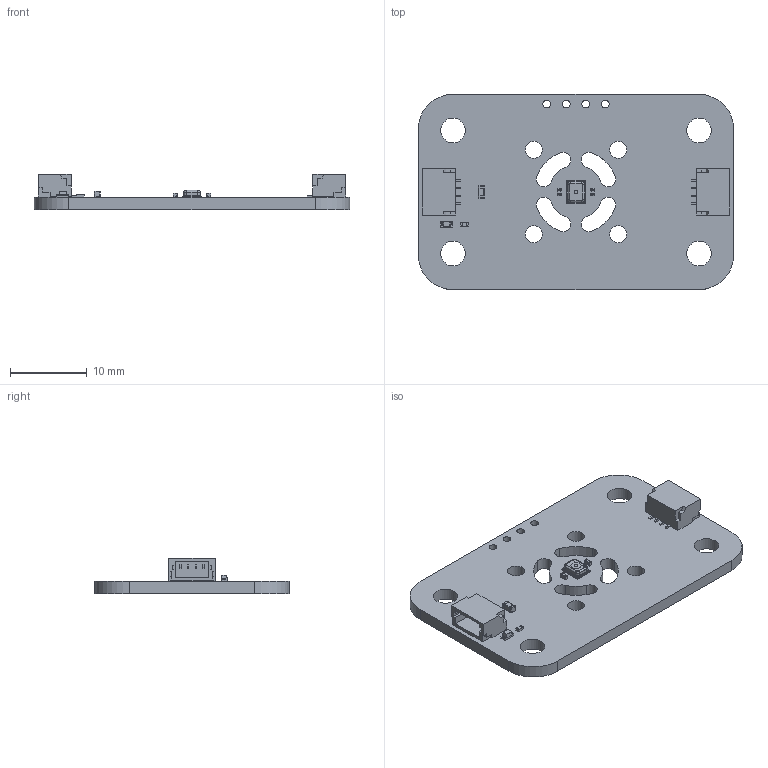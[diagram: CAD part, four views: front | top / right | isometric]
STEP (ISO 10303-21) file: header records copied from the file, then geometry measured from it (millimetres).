
FILE_DESCRIPTION(('Open CASCADE Model'),'2;1');
FILE_NAME('Open CASCADE Shape Model','2024-06-27T16:16:48',('Author'),( 'Open CASCADE'),'Open CASCADE STEP processor 7.5','Open CASCADE 7.5' ,'Unknown');
FILE_SCHEMA(('AUTOMOTIVE_DESIGN { 1 0 10303 214 1 1 1 1 }'));
Length unit declared in the file: millimetre
Products named in the file (19): PCB; Board; Open CASCADE STEP translator 7.5 12.1.1; J1; SM04B-SRSS-TB_RGB12040119; J2; D1; HSMx-190; R1; RES-0402; U1; HS3000; HS300substrate; HS300shield; C3; CAP-0402; C2; CAP-0603; C1
Assembly tree (20 placements, depth 4):
  PCB
    Board
      Open CASCADE STEP translator 7.5 12.1.1
    J1
      SM04B-SRSS-TB_RGB12040119
    J2
      SM04B-SRSS-TB_RGB12040119
    D1
      HSMx-190
    R1
      RES-0402
    U1
      HS3000
        HS300substrate
        HS300shield
    C3
      CAP-0402
    C2
      CAP-0603
    C1
      CAP-0402
Bounding box: 41 x 25.36 x 4.58 mm (x, y, z)
Volume: 1585.6 mm3; surface area: 2709.7 mm2
Topology: 10 solids, 31 shells, 995 faces, 2378 edges, 1462 vertices
Faces by surface type: plane 710, cylinder 213, sphere 28, bspline 24, torus 12, revolution 8
Full cylindrical faces by diameter (mm): 0.07 x1, 1 x4, 2.2 x4, 3.2 x4
Entity records: 27647 total; most frequent: CARTESIAN_POINT 4637, DIRECTION 4086, ORIENTED_EDGE 3980, EDGE_CURVE 1992, LINE 1532, VECTOR 1532, AXIS2_PLACEMENT_3D 1273, VERTEX_POINT 1244
